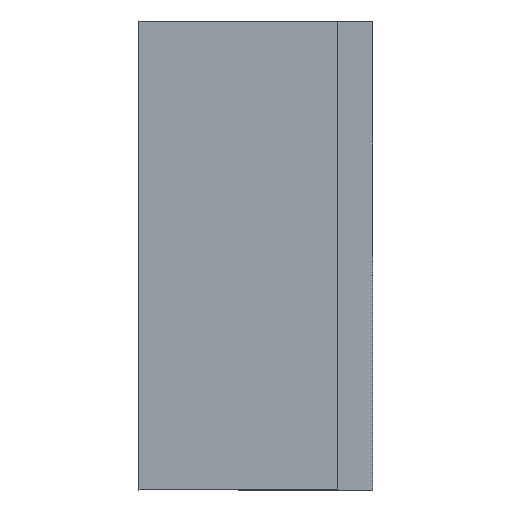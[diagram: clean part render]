
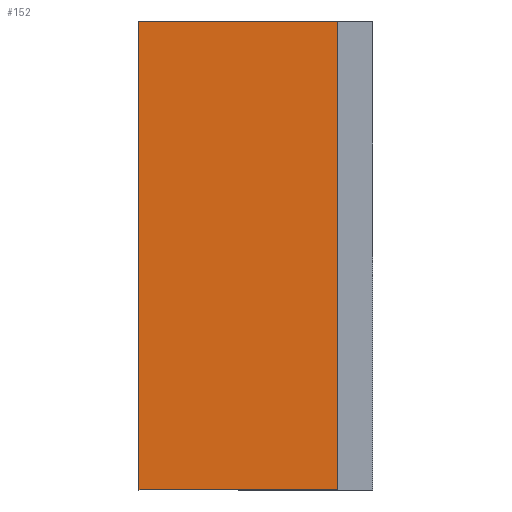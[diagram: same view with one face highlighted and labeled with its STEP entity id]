
A CAD part, left-side view. The second image highlights one B-rep face of the part: STEP entity #152.
In plain terms, the highlighted planar face has unit normal (-1, 0, 0).
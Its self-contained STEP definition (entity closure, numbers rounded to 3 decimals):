
#152=ADVANCED_FACE('',(#178),#171,.T.);
#171=PLANE('',#400);
#178=FACE_OUTER_BOUND('',#187,.T.);
#187=EDGE_LOOP('',(#231,#232,#233,#234));
#231=ORIENTED_EDGE('',*,*,#330,.F.);
#232=ORIENTED_EDGE('',*,*,#321,.T.);
#233=ORIENTED_EDGE('',*,*,#331,.F.);
#234=ORIENTED_EDGE('',*,*,#332,.T.);
#293=VERTEX_POINT('',#529);
#294=VERTEX_POINT('',#531);
#301=VERTEX_POINT('',#549);
#302=VERTEX_POINT('',#551);
#321=EDGE_CURVE('',#294,#293,#357,.T.);
#330=EDGE_CURVE('',#294,#301,#363,.T.);
#331=EDGE_CURVE('',#302,#293,#364,.T.);
#332=EDGE_CURVE('',#302,#301,#365,.T.);
#357=LINE('',#530,#377);
#363=LINE('',#548,#383);
#364=LINE('',#550,#384);
#365=LINE('',#552,#385);
#377=VECTOR('',#435,1.);
#383=VECTOR('',#451,1.);
#384=VECTOR('',#452,1.);
#385=VECTOR('',#453,1.);
#400=AXIS2_PLACEMENT_3D('',#553,#454,#455);
#435=DIRECTION('',(0.,1.,0.));
#451=DIRECTION('',(0.,0.,-1.));
#452=DIRECTION('',(0.,0.,1.));
#453=DIRECTION('',(0.,-1.,0.));
#454=DIRECTION('',(-1.,0.,0.));
#455=DIRECTION('',(0.,0.,1.));
#529=CARTESIAN_POINT('',(0.,20.,40.));
#530=CARTESIAN_POINT('',(0.,10.,40.));
#531=CARTESIAN_POINT('',(0.,3.,40.));
#548=CARTESIAN_POINT('',(0.,3.,40.));
#549=CARTESIAN_POINT('',(0.,3.,0.));
#550=CARTESIAN_POINT('',(0.,20.,0.));
#551=CARTESIAN_POINT('',(0.,20.,0.));
#552=CARTESIAN_POINT('',(0.,10.,0.));
#553=CARTESIAN_POINT('',(0.,10.,0.));
